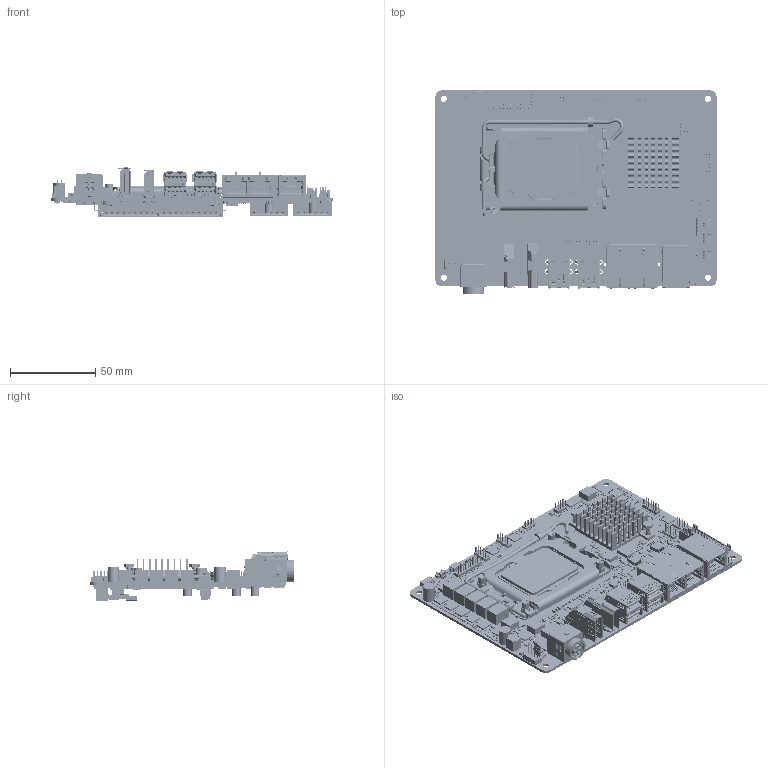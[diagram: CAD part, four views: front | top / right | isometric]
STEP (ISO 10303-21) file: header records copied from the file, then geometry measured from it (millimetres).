
FILE_DESCRIPTION((''),'2;1');
FILE_NAME('0-EPI-ARLS_PCB_ASM','2025-06-05T15:13:15',('isaac_lin'),(''),'CREO PARAMETRIC BY PTC INC, 2024273','CREO PARAMETRIC BY PTC INC, 2024273','');
FILE_SCHEMA(('CONFIG_CONTROL_DESIGN'));
Products named in the file (142): EPI-ARLS_PCB; SKTV_PIN_06042019_2_1; SKTV_500UM_BALL_2_1; 19WW23-SKTV-PNP-CAP-REFERENCE_1; LGA1700_DG07_06172020_1; K72926-C_LGA1700_DGP7_ASM_1_ASM; K26723_R01_TEST-VEHICLE_1; K62902-003_1; K62889-003_1; K62882-003_ASM_1_ASM; K62903-002_1; K75296-003_1; K75575-003_ASM_1_ASM; K62866-003_ASM_1_ASM; K62916-001_1; K62938-002_1; K62915-002_ASM_1_ASM; K62914-003_1; K62907-002_ASM_1_ASM; K95976-002_ASM_1_ASM; K62832-002_1; K62843-002_1; K62844-002_ASM_1_ASM; K94071-001_ASM_1_ASM; K62851-003_ASM_1_ASM; LGA1700_OEM-STACK_R1P0_ASSY_ASM_ASM; E168XH00000H-LGA1700_ADL-CPU_ASM; E16J2400301R-1; E16F2020130H; E16F1019131R-1; E16D5I00303R-1; E16G2282304R-1; E16G2142308R-1; ALDER-LAKE-PCH; ALDER-LAKE-PCH_ASM; E1961212060004R; MANIFOLD_SOLID_E19612060004R; MANIFOLD_SOLID_BREP_3833_1_1_2; PUSH_PIN_E19612060004R_ASM; E1961212060004R_ASM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
Assembly tree (1724 placements, depth 8):
  0-EPI-ARLS_PCB_ASM
    EPI-ARLS_PCB
    E168XH00000H-LGA1700_ADL-CPU_ASM
      LGA1700_OEM-STACK_R1P0_ASSY_ASM_ASM
        K72926-C_LGA1700_DGP7_ASM_1_ASM
          SKTV_PIN_06042019_2_1  x22
          SKTV_500UM_BALL_2_1  x21
          19WW23-SKTV-PNP-CAP-REFERENCE_1
          LGA1700_DG07_06172020_1
        K26723_R01_TEST-VEHICLE_1
        K62851-003_ASM_1_ASM
          K95976-002_ASM_1_ASM
            K62866-003_ASM_1_ASM
              K62882-003_ASM_1_ASM
                K62902-003_1
                K62889-003_1
              K75575-003_ASM_1_ASM
                K62903-002_1
                K75296-003_1  x2
            K62907-002_ASM_1_ASM
              K62915-002_ASM_1_ASM
                K62916-001_1
                K62938-002_1
              K62914-003_1
          K94071-001_ASM_1_ASM
            K62844-002_ASM_1_ASM
              K62832-002_1
              K62843-002_1
    E16J2400301R-1
    E16F2020130H
    E16F1019131R-1
    E16D5I00303R-1  x2
    E16G2282304R-1
    E16G2142308R-1
    ALDER-LAKE-PCH_ASM
      ALDER-LAKE-PCH
    E1961212060004R_ASM
      E1961212060004R
      PUSH_PIN_E19612060004R_ASM  x2
        MANIFOLD_SOLID_E19612060004R
        MANIFOLD_SOLID_BREP_3833_1_1_2
    E16135200K5R-1  x2
    E16135200K0R-1  x4
    E16135200K2R-1
    E193A3306X1R  x3
    E1612620000R_1
    E1613420001R_1
    E1672506110H-1
    E1660211203H-1
    E193A2X1301R  x4
    EPI-ARLS_M-20250401_ASM
      E121220102D000H
      E16BB671031H  x2
      E14S4961700H  x2
      E1304300042H
      E1212206827000H
      E14S3352600H
      E121220222EH
      E14S3321901H
      E14S3043700H
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Bounding box: 165 x 119.2 x 29.1 mm (x, y, z)
Volume: 87421.6 mm3; surface area: 160854.9 mm2
Topology: 1744 solids, 1996 shells, 55265 faces, 145004 edges, 94231 vertices
Faces by surface type: plane 44737, cylinder 9524, bspline 490, torus 180, sphere 136, cone 103, extrusion 95
Entity records: 1219337 total; most frequent: CARTESIAN_POINT 246200, ORIENTED_EDGE 204354, DIRECTION 194062, EDGE_CURVE 102227, VECTOR 85404, LINE 85311, VERTEX_POINT 66204, AXIS2_PLACEMENT_3D 54329
